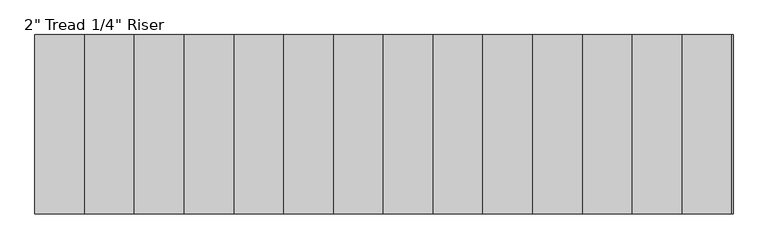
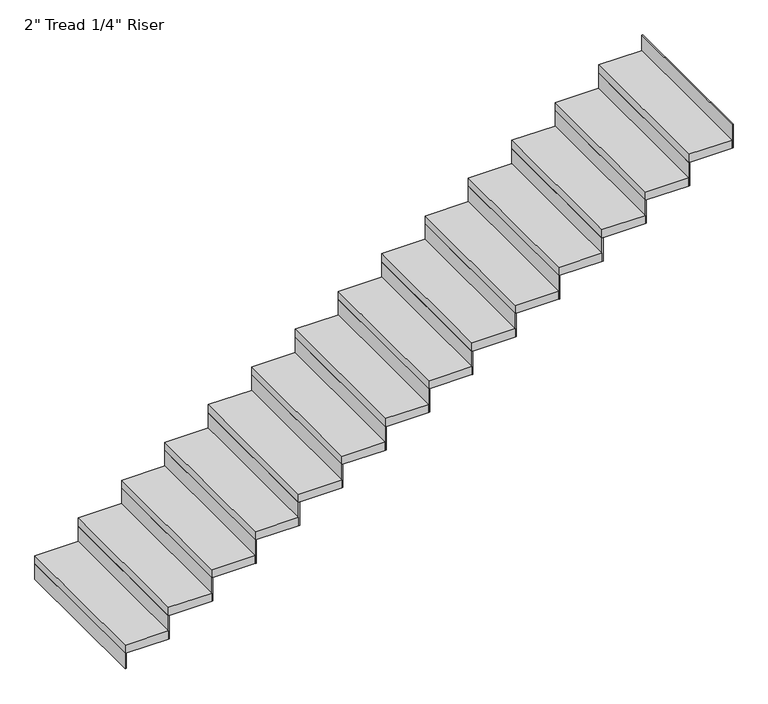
"""IFC4 building model written with IfcOpenShell, lengths in millimetres: stair flight geometry."""

import ifcopenshell
import ifcopenshell.guid

model = None  # the IFC model being written
_history = None  # IfcOwnerHistory: only IFC2X3 demands one
_inside = {}  # id of a spatial element -> (the spatial element, [elements in it])
_under = {}  # id of a project, library or spatial element -> (it, [spatial elements below it])
_declared = {}  # id of a project -> (the project, [libraries it declares])
_typed = {}  # id of a type object -> (the type object, [elements of that type])
_made_of = {}  # id of a material, layer set ... -> (it, [elements and type objects made of it])


def new_model(schema):
    """Start an empty IFC model of exactly this schema.

    Asked for "IFC4X3", IfcOpenShell would pick the latest addendum, in which some entities
    have other attributes; the version numbers below select the first issue.
    IFC2X3 requires an IfcOwnerHistory on every rooted entity: one is made here for all.
    """
    global model, _history
    if schema == "IFC4X3":
        model = ifcopenshell.file(schema_version=(4, 3, 0, 0))
    else:
        model = ifcopenshell.file(schema=schema)
    _inside.clear()
    _under.clear()
    _declared.clear()
    _typed.clear()
    _made_of.clear()
    _history = None
    if model.schema == "IFC2X3":
        org = make("IfcOrganization", Name="unknown")
        user = make(
            "IfcPersonAndOrganization",
            ThePerson=make("IfcPerson", FamilyName="unknown"),
            TheOrganization=org,
        )
        app = make(
            "IfcApplication",
            ApplicationDeveloper=org,
            Version="unknown",
            ApplicationFullName="unknown",
            ApplicationIdentifier="unknown",
        )
        _history = make(
            "IfcOwnerHistory",
            OwningUser=user,
            OwningApplication=app,
            ChangeAction="ADDED",
            CreationDate=0,
        )
    return model


def make(cls, **values):
    """One entity of the class cls with the attributes given. An attribute that is None is left unset."""
    return model.create_entity(
        cls, **{name: value for name, value in values.items() if value is not None}
    )


def rooted(cls, **values):
    """An entity with a GlobalId (a new one), such as an element, a storey or a relation."""
    return make(cls, GlobalId=ifcopenshell.guid.new(), OwnerHistory=_history, **values)


def si_unit(unit_type, name, prefix=None):
    """IfcSIUnit, for example si_unit("LENGTHUNIT", "METRE", prefix="MILLI")."""
    return make("IfcSIUnit", UnitType=unit_type, Prefix=prefix, Name=name)


def assignment(units):
    """IfcUnitAssignment: the units of a project."""
    return None if units is None else make("IfcUnitAssignment", Units=units)


def point(xyz):
    """IfcCartesianPoint."""
    return None if xyz is None else make("IfcCartesianPoint", Coordinates=xyz)


def direction(xyz):
    """IfcDirection."""
    return None if xyz is None else make("IfcDirection", DirectionRatios=xyz)


def frame(location, z_axis=None, x_axis=None):
    """IfcAxis2Placement3D, a coordinate frame: its origin and axes. An axis left out is left unset."""
    return make(
        "IfcAxis2Placement3D",
        Location=point(location),
        Axis=direction(z_axis),
        RefDirection=direction(x_axis),
    )


def origin():
    """The frame at (0, 0, 0) with its axes left unset."""
    return frame((0.0, 0.0, 0.0))


def origin_with_axes():
    """The frame at (0, 0, 0) with the z axis (0, 0, 1) and the x axis (1, 0, 0) written out."""
    return frame((0.0, 0.0, 0.0), z_axis=(0.0, 0.0, 1.0), x_axis=(1.0, 0.0, 0.0))


def place(relative_to, where):
    """IfcLocalPlacement: puts the frame where relative to a parent placement (None: the world)."""
    return make(
        "IfcLocalPlacement", PlacementRelTo=relative_to, RelativePlacement=where
    )


def context(
    kind, dimensions, precision=None, world=None, true_north=None, identifier=None
):
    """IfcGeometricRepresentationContext, for example the 3D "Model" context."""
    return make(
        "IfcGeometricRepresentationContext",
        ContextIdentifier=identifier,
        ContextType=kind,
        CoordinateSpaceDimension=dimensions,
        Precision=precision,
        WorldCoordinateSystem=world,
        TrueNorth=true_north,
    )


def project(units=None, contexts=None):
    """IfcProject with its units and contexts."""
    return rooted(
        "IfcProject",
        Name="project",
        RepresentationContexts=contexts,
        UnitsInContext=assignment(units),
    )


def spatial(cls, under=None, at=None, **own):
    """A site, building, storey or space (cls), placed at a placement, below another one or the project."""
    s = rooted(cls, ObjectPlacement=at, **own)
    if under is not None:
        _under.setdefault(under.id(), (under, []))[1].append(s)
    return s


def polyline(points):
    """IfcPolyline through the points."""
    return make("IfcPolyline", Points=[point(p) for p in points])


def outline(outer, holes=None, kind="AREA"):
    """IfcArbitraryClosedProfileDef: a profile drawn as a closed curve; with holes, ...WithVoids."""
    if holes is None:
        return make("IfcArbitraryClosedProfileDef", ProfileType=kind, OuterCurve=outer)
    return make(
        "IfcArbitraryProfileDefWithVoids",
        ProfileType=kind,
        OuterCurve=outer,
        InnerCurves=holes,
    )


def extrude(swept, where, along, depth):
    """IfcExtrudedAreaSolid: the profile swept, set in the frame where, extruded along a direction by depth."""
    return make(
        "IfcExtrudedAreaSolid",
        SweptArea=swept,
        Position=where,
        ExtrudedDirection=direction(along),
        Depth=depth,
    )


def shape(context_of_items, identifier, shape_type, items):
    """IfcShapeRepresentation: the items that make up one representation, for example the "Body"."""
    return make(
        "IfcShapeRepresentation",
        ContextOfItems=context_of_items,
        RepresentationIdentifier=identifier,
        RepresentationType=shape_type,
        Items=items,
    )


def source(mapping_origin, context_of_items, identifier, shape_type, items):
    """IfcRepresentationMap: a shape defined once, which mapped items show again and again."""
    return make(
        "IfcRepresentationMap",
        MappingOrigin=mapping_origin,
        MappedRepresentation=shape(context_of_items, identifier, shape_type, items),
    )


def transform(
    local_origin,
    x_axis=None,
    y_axis=None,
    z_axis=None,
    scale=None,
    scale2=None,
    scale3=None,
    uniform=True,
):
    """IfcCartesianTransformationOperator3D, or its non-uniform kind. x_axis, y_axis, z_axis: its Axis1, 2, 3."""
    if uniform:
        return make(
            "IfcCartesianTransformationOperator3D",
            Axis1=direction(x_axis),
            Axis2=direction(y_axis),
            LocalOrigin=point(local_origin),
            Scale=scale,
            Axis3=direction(z_axis),
        )
    return make(
        "IfcCartesianTransformationOperator3DnonUniform",
        Axis1=direction(x_axis),
        Axis2=direction(y_axis),
        LocalOrigin=point(local_origin),
        Scale=scale,
        Axis3=direction(z_axis),
        Scale2=scale2,
        Scale3=scale3,
    )


def mapped(mapping_source, mapping_target):
    """IfcMappedItem: shows the shape of a source again, moved by a transform."""
    return make(
        "IfcMappedItem", MappingSource=mapping_source, MappingTarget=mapping_target
    )


def made_of(thing, what):
    """Note that an element or type object is made of a material, layer set ...; save() writes the relation."""
    if what is not None:
        _made_of.setdefault(what.id(), (what, []))[1].append(thing)
    return thing


def element(
    cls,
    number,
    at=None,
    inside=None,
    cuts=None,
    type_object=None,
    material=None,
    context=None,
    identifier="Body",
    shape_type=None,
    held_by="IfcProductDefinitionShape",
    body=None,
    shapes=None,
    **own,
):
    """One element of the class cls, such as IfcWall. Its Tag is "e" and its number.

    at: its placement. inside: the storey or other place that contains it. cuts: it is an
    opening in that element (IfcRelVoidsElement). A single representation is given by context,
    identifier, shape_type and body (its items); several are given by shapes. held_by: the class
    of the entity that holds the representations. save() writes the other relations.
    """
    e = rooted(cls, Tag="e%d" % number, ObjectPlacement=at, **own)
    if body is not None:
        shapes = [shape(context, identifier, shape_type, body)]
    if shapes is not None:
        e.Representation = make(held_by, Representations=shapes)
    if inside is not None:
        _inside.setdefault(inside.id(), (inside, []))[1].append(e)
    if cuts is not None:
        rooted(
            "IfcRelVoidsElement", RelatingBuildingElement=cuts, RelatedOpeningElement=e
        )
    if type_object is not None:
        _typed.setdefault(type_object.id(), (type_object, []))[1].append(e)
    return made_of(e, material)


def aggregate(whole, parts):
    """IfcRelAggregates: a whole, such as a stair, and the parts it consists of."""
    return rooted("IfcRelAggregates", RelatingObject=whole, RelatedObjects=parts)


def save(model, path):
    """Write the relations noted so far, then the file.

    IfcRelAggregates (storeys below a building ...), IfcRelContainedInSpatialStructure (elements
    in a storey), IfcRelDefinesByType, IfcRelAssociatesMaterial and IfcRelDeclares: one each for
    every whole, place, type object, material and project.
    """
    for whole, parts in _under.values():
        aggregate(whole, parts)
    for where, things in _inside.values():
        rooted(
            "IfcRelContainedInSpatialStructure",
            RelatedElements=things,
            RelatingStructure=where,
        )
    for kind, things in _typed.values():
        rooted("IfcRelDefinesByType", RelatedObjects=things, RelatingType=kind)
    for what, things in _made_of.values():
        rooted("IfcRelAssociatesMaterial", RelatedObjects=things, RelatingMaterial=what)
    for by, libraries in _declared.values():
        rooted("IfcRelDeclares", RelatingContext=by, RelatedDefinitions=libraries)
    model.write(path)


def stair_flight_011fdecc(model_context):
    return source(origin(), model_context, "Body", "SweptSolid", [
        extrude(outline(polyline([(133302.5023809, 32313.9530185), (133296.1523809, 32313.9530185), (133296.1523809, 33228.3530185), (133302.5023809, 33228.3530185), (133302.5023809, 32313.9530185)])), origin_with_axes(), (0.0, 0.0, 1.0), 94.3428571),
        extrude(outline(polyline([(133550.1523809, 33228.3530185), (133550.1523809, 32313.9530185), (133296.1523809, 32313.9530185), (133296.1523809, 33228.3530185), (133550.1523809, 33228.3530185)])), frame((0.0, 0.0, 94.3428571), z_axis=(0.0, 0.0, 1.0), x_axis=(1.0, 0.0, 0.0)), (0.0, 0.0, 1.0), 50.8),
        extrude(outline(polyline([(133556.5023809, 32313.9530185), (133550.1523809, 32313.9530185), (133550.1523809, 33228.3530185), (133556.5023809, 33228.3530185), (133556.5023809, 32313.9530185)])), frame((0.0, 0.0, 94.3428571), z_axis=(0.0, 0.0, 1.0), x_axis=(1.0, 0.0, 0.0)), (0.0, 0.0, 1.0), 145.1428571),
        extrude(outline(polyline([(133804.1523809, 33228.3530185), (133804.1523809, 32313.9530185), (133550.1523809, 32313.9530185), (133550.1523809, 33228.3530185), (133804.1523809, 33228.3530185)])), frame((0.0, 0.0, 239.4857143), z_axis=(0.0, 0.0, 1.0), x_axis=(1.0, 0.0, 0.0)), (0.0, 0.0, 1.0), 50.8),
        extrude(outline(polyline([(133810.5023809, 32313.9530185), (133804.1523809, 32313.9530185), (133804.1523809, 33228.3530185), (133810.5023809, 33228.3530185), (133810.5023809, 32313.9530185)])), frame((0.0, 0.0, 239.4857143), z_axis=(0.0, 0.0, 1.0), x_axis=(1.0, 0.0, 0.0)), (0.0, 0.0, 1.0), 145.1428571),
        extrude(outline(polyline([(134058.1523809, 33228.3530185), (134058.1523809, 32313.9530185), (133804.1523809, 32313.9530185), (133804.1523809, 33228.3530185), (134058.1523809, 33228.3530185)])), frame((0.0, 0.0, 384.6285714), z_axis=(0.0, 0.0, 1.0), x_axis=(1.0, 0.0, 0.0)), (0.0, 0.0, 1.0), 50.8),
        extrude(outline(polyline([(134064.5023809, 32313.9530185), (134058.1523809, 32313.9530185), (134058.1523809, 33228.3530185), (134064.5023809, 33228.3530185), (134064.5023809, 32313.9530185)])), frame((0.0, 0.0, 384.6285714), z_axis=(0.0, 0.0, 1.0), x_axis=(1.0, 0.0, 0.0)), (0.0, 0.0, 1.0), 145.1428571),
        extrude(outline(polyline([(134312.1523809, 33228.3530185), (134312.1523809, 32313.9530185), (134058.1523809, 32313.9530185), (134058.1523809, 33228.3530185), (134312.1523809, 33228.3530185)])), frame((0.0, 0.0, 529.7714286), z_axis=(0.0, 0.0, 1.0), x_axis=(1.0, 0.0, 0.0)), (0.0, 0.0, 1.0), 50.8),
        extrude(outline(polyline([(134318.5023809, 32313.9530185), (134312.1523809, 32313.9530185), (134312.1523809, 33228.3530185), (134318.5023809, 33228.3530185), (134318.5023809, 32313.9530185)])), frame((0.0, 0.0, 529.7714286), z_axis=(0.0, 0.0, 1.0), x_axis=(1.0, 0.0, 0.0)), (0.0, 0.0, 1.0), 145.1428571),
        extrude(outline(polyline([(134566.1523809, 33228.3530185), (134566.1523809, 32313.9530185), (134312.1523809, 32313.9530185), (134312.1523809, 33228.3530185), (134566.1523809, 33228.3530185)])), frame((0.0, 0.0, 674.9142857), z_axis=(0.0, 0.0, 1.0), x_axis=(1.0, 0.0, 0.0)), (0.0, 0.0, 1.0), 50.8),
        extrude(outline(polyline([(134572.5023809, 32313.9530185), (134566.1523809, 32313.9530185), (134566.1523809, 33228.3530185), (134572.5023809, 33228.3530185), (134572.5023809, 32313.9530185)])), frame((0.0, 0.0, 674.9142857), z_axis=(0.0, 0.0, 1.0), x_axis=(1.0, 0.0, 0.0)), (0.0, 0.0, 1.0), 145.1428571),
        extrude(outline(polyline([(134820.1523809, 33228.3530185), (134820.1523809, 32313.9530185), (134566.1523809, 32313.9530185), (134566.1523809, 33228.3530185), (134820.1523809, 33228.3530185)])), frame((0.0, 0.0, 820.0571429), z_axis=(0.0, 0.0, 1.0), x_axis=(1.0, 0.0, 0.0)), (0.0, 0.0, 1.0), 50.8),
        extrude(outline(polyline([(134826.5023809, 32313.9530185), (134820.1523809, 32313.9530185), (134820.1523809, 33228.3530185), (134826.5023809, 33228.3530185), (134826.5023809, 32313.9530185)])), frame((0.0, 0.0, 820.0571429), z_axis=(0.0, 0.0, 1.0), x_axis=(1.0, 0.0, 0.0)), (0.0, 0.0, 1.0), 145.1428571),
        extrude(outline(polyline([(135074.1523809, 33228.3530185), (135074.1523809, 32313.9530185), (134820.1523809, 32313.9530185), (134820.1523809, 33228.3530185), (135074.1523809, 33228.3530185)])), frame((0.0, 0.0, 965.2), z_axis=(0.0, 0.0, 1.0), x_axis=(1.0, 0.0, 0.0)), (0.0, 0.0, 1.0), 50.8),
        extrude(outline(polyline([(135080.5023809, 32313.9530185), (135074.1523809, 32313.9530185), (135074.1523809, 33228.3530185), (135080.5023809, 33228.3530185), (135080.5023809, 32313.9530185)])), frame((0.0, 0.0, 965.2), z_axis=(0.0, 0.0, 1.0), x_axis=(1.0, 0.0, 0.0)), (0.0, 0.0, 1.0), 145.1428571),
        extrude(outline(polyline([(135328.1523809, 33228.3530185), (135328.1523809, 32313.9530185), (135074.1523809, 32313.9530185), (135074.1523809, 33228.3530185), (135328.1523809, 33228.3530185)])), frame((0.0, 0.0, 1110.3428571), z_axis=(0.0, 0.0, 1.0), x_axis=(1.0, 0.0, 0.0)), (0.0, 0.0, 1.0), 50.8),
        extrude(outline(polyline([(135334.5023809, 32313.9530185), (135328.1523809, 32313.9530185), (135328.1523809, 33228.3530185), (135334.5023809, 33228.3530185), (135334.5023809, 32313.9530185)])), frame((0.0, 0.0, 1110.3428571), z_axis=(0.0, 0.0, 1.0), x_axis=(1.0, 0.0, 0.0)), (0.0, 0.0, 1.0), 145.1428571),
        extrude(outline(polyline([(135582.1523809, 33228.3530185), (135582.1523809, 32313.9530185), (135328.1523809, 32313.9530185), (135328.1523809, 33228.3530185), (135582.1523809, 33228.3530185)])), frame((0.0, 0.0, 1255.4857143), z_axis=(0.0, 0.0, 1.0), x_axis=(1.0, 0.0, 0.0)), (0.0, 0.0, 1.0), 50.8),
        extrude(outline(polyline([(135588.5023809, 32313.9530185), (135582.1523809, 32313.9530185), (135582.1523809, 33228.3530185), (135588.5023809, 33228.3530185), (135588.5023809, 32313.9530185)])), frame((0.0, 0.0, 1255.4857143), z_axis=(0.0, 0.0, 1.0), x_axis=(1.0, 0.0, 0.0)), (0.0, 0.0, 1.0), 145.1428571),
        extrude(outline(polyline([(135836.1523809, 33228.3530185), (135836.1523809, 32313.9530185), (135582.1523809, 32313.9530185), (135582.1523809, 33228.3530185), (135836.1523809, 33228.3530185)])), frame((0.0, 0.0, 1400.6285714), z_axis=(0.0, 0.0, 1.0), x_axis=(1.0, 0.0, 0.0)), (0.0, 0.0, 1.0), 50.8),
        extrude(outline(polyline([(135842.5023809, 32313.9530185), (135836.1523809, 32313.9530185), (135836.1523809, 33228.3530185), (135842.5023809, 33228.3530185), (135842.5023809, 32313.9530185)])), frame((0.0, 0.0, 1400.6285714), z_axis=(0.0, 0.0, 1.0), x_axis=(1.0, 0.0, 0.0)), (0.0, 0.0, 1.0), 145.1428571),
        extrude(outline(polyline([(136090.1523809, 33228.3530185), (136090.1523809, 32313.9530185), (135836.1523809, 32313.9530185), (135836.1523809, 33228.3530185), (136090.1523809, 33228.3530185)])), frame((0.0, 0.0, 1545.7714286), z_axis=(0.0, 0.0, 1.0), x_axis=(1.0, 0.0, 0.0)), (0.0, 0.0, 1.0), 50.8),
        extrude(outline(polyline([(136096.5023809, 32313.9530185), (136090.1523809, 32313.9530185), (136090.1523809, 33228.3530185), (136096.5023809, 33228.3530185), (136096.5023809, 32313.9530185)])), frame((0.0, 0.0, 1545.7714286), z_axis=(0.0, 0.0, 1.0), x_axis=(1.0, 0.0, 0.0)), (0.0, 0.0, 1.0), 145.1428571),
        extrude(outline(polyline([(136344.1523809, 33228.3530185), (136344.1523809, 32313.9530185), (136090.1523809, 32313.9530185), (136090.1523809, 33228.3530185), (136344.1523809, 33228.3530185)])), frame((0.0, 0.0, 1690.9142857), z_axis=(0.0, 0.0, 1.0), x_axis=(1.0, 0.0, 0.0)), (0.0, 0.0, 1.0), 50.8),
        extrude(outline(polyline([(136350.5023809, 32313.9530185), (136344.1523809, 32313.9530185), (136344.1523809, 33228.3530185), (136350.5023809, 33228.3530185), (136350.5023809, 32313.9530185)])), frame((0.0, 0.0, 1690.9142857), z_axis=(0.0, 0.0, 1.0), x_axis=(1.0, 0.0, 0.0)), (0.0, 0.0, 1.0), 145.1428571),
        extrude(outline(polyline([(136598.1523809, 33228.3530185), (136598.1523809, 32313.9530185), (136344.1523809, 32313.9530185), (136344.1523809, 33228.3530185), (136598.1523809, 33228.3530185)])), frame((0.0, 0.0, 1836.0571429), z_axis=(0.0, 0.0, 1.0), x_axis=(1.0, 0.0, 0.0)), (0.0, 0.0, 1.0), 50.8),
        extrude(outline(polyline([(136604.5023809, 32313.9530185), (136598.1523809, 32313.9530185), (136598.1523809, 33228.3530185), (136604.5023809, 33228.3530185), (136604.5023809, 32313.9530185)])), frame((0.0, 0.0, 1836.0571429), z_axis=(0.0, 0.0, 1.0), x_axis=(1.0, 0.0, 0.0)), (0.0, 0.0, 1.0), 145.1428571),
        extrude(outline(polyline([(136858.5023809, 32313.9530185), (136852.1523809, 32313.9530185), (136852.1523809, 33228.3530185), (136858.5023809, 33228.3530185), (136858.5023809, 32313.9530185)])), frame((0.0, 0.0, 1981.2), z_axis=(0.0, 0.0, 1.0), x_axis=(1.0, 0.0, 0.0)), (0.0, 0.0, 1.0), 145.1428571),
        extrude(outline(polyline([(136852.1523809, 33228.3530185), (136852.1523809, 32313.9530185), (136598.1523809, 32313.9530185), (136598.1523809, 33228.3530185), (136852.1523809, 33228.3530185)])), frame((0.0, 0.0, 1981.2), z_axis=(0.0, 0.0, 1.0), x_axis=(1.0, 0.0, 0.0)), (0.0, 0.0, 1.0), 50.8),
    ])


if __name__ == "__main__":
    model = new_model("IFC4")
    model_context = context("Model", 3, world=origin())
    ifc_project = project(units=[si_unit("LENGTHUNIT", "METRE", prefix="MILLI")], contexts=[model_context])
    site = spatial("IfcSite", under=ifc_project)
    building = spatial("IfcBuilding", under=site)
    placement = place(None, origin())
    stair_flight_shape = stair_flight_011fdecc(model_context)
    element("IfcStairFlight", 1, ObjectType="2\" Tread 1/4\" Riser", at=placement, inside=building, context=model_context, shape_type="MappedRepresentation", body=[
        mapped(stair_flight_shape, transform((0.0, 0.0, 0.0), x_axis=(1.0, 0.0, 0.0), y_axis=(0.0, 1.0, 0.0), z_axis=(0.0, 0.0, 1.0))),
    ])
    save(model, "model.ifc")
